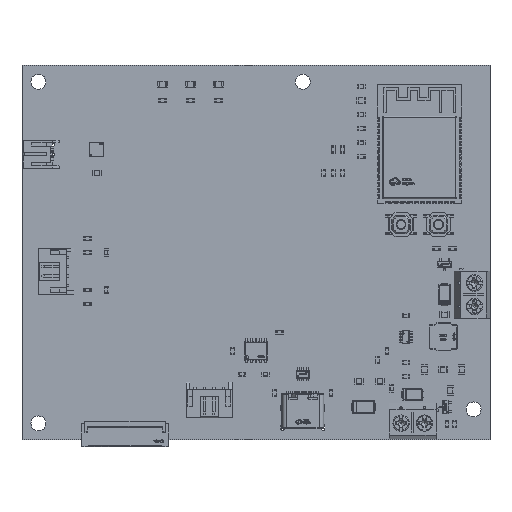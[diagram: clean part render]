
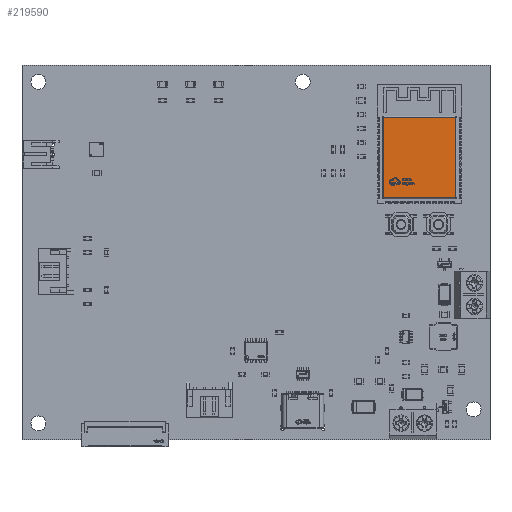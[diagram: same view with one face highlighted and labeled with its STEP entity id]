
A CAD part, top view. The second image highlights one B-rep face of the part: STEP entity #219590.
In plain terms, the highlighted planar face has unit normal (0, 0, 1).
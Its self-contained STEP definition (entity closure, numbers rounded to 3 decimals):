
#219590 = ADVANCED_FACE('',(#219591),#219625,.F.);
#219591 = FACE_BOUND('',#219592,.T.);
#219592 = EDGE_LOOP('',(#219593,#219603,#219611,#219619));
#219593 = ORIENTED_EDGE('',*,*,#219594,.T.);
#219594 = EDGE_CURVE('',#219595,#219597,#219599,.T.);
#219595 = VERTEX_POINT('',#219596);
#219596 = CARTESIAN_POINT('',(-7.7,5.7,3.1));
#219597 = VERTEX_POINT('',#219598);
#219598 = CARTESIAN_POINT('',(-7.7,-11.5,3.1));
#219599 = LINE('',#219600,#219601);
#219600 = CARTESIAN_POINT('',(-7.7,0.,3.1));
#219601 = VECTOR('',#219602,1.);
#219602 = DIRECTION('',(0.,-1.,0.));
#219603 = ORIENTED_EDGE('',*,*,#219604,.T.);
#219604 = EDGE_CURVE('',#219597,#219605,#219607,.T.);
#219605 = VERTEX_POINT('',#219606);
#219606 = CARTESIAN_POINT('',(7.7,-11.5,3.1));
#219607 = LINE('',#219608,#219609);
#219608 = CARTESIAN_POINT('',(0.,-11.5,3.1));
#219609 = VECTOR('',#219610,1.);
#219610 = DIRECTION('',(1.,-0.,0.));
#219611 = ORIENTED_EDGE('',*,*,#219612,.T.);
#219612 = EDGE_CURVE('',#219605,#219613,#219615,.T.);
#219613 = VERTEX_POINT('',#219614);
#219614 = CARTESIAN_POINT('',(7.7,5.7,3.1));
#219615 = LINE('',#219616,#219617);
#219616 = CARTESIAN_POINT('',(7.7,0.,3.1));
#219617 = VECTOR('',#219618,1.);
#219618 = DIRECTION('',(0.,1.,0.));
#219619 = ORIENTED_EDGE('',*,*,#219620,.T.);
#219620 = EDGE_CURVE('',#219613,#219595,#219621,.T.);
#219621 = LINE('',#219622,#219623);
#219622 = CARTESIAN_POINT('',(0.,5.7,3.1));
#219623 = VECTOR('',#219624,1.);
#219624 = DIRECTION('',(-1.,0.,0.));
#219625 = PLANE('',#219626);
#219626 = AXIS2_PLACEMENT_3D('',#219627,#219628,#219629);
#219627 = CARTESIAN_POINT('',(0.,0.,3.1));
#219628 = DIRECTION('',(0.,0.,-1.));
#219629 = DIRECTION('',(-1.,0.,-0.));
